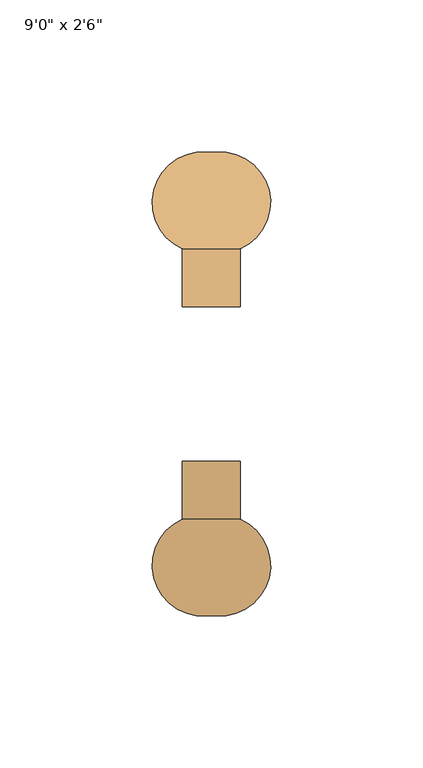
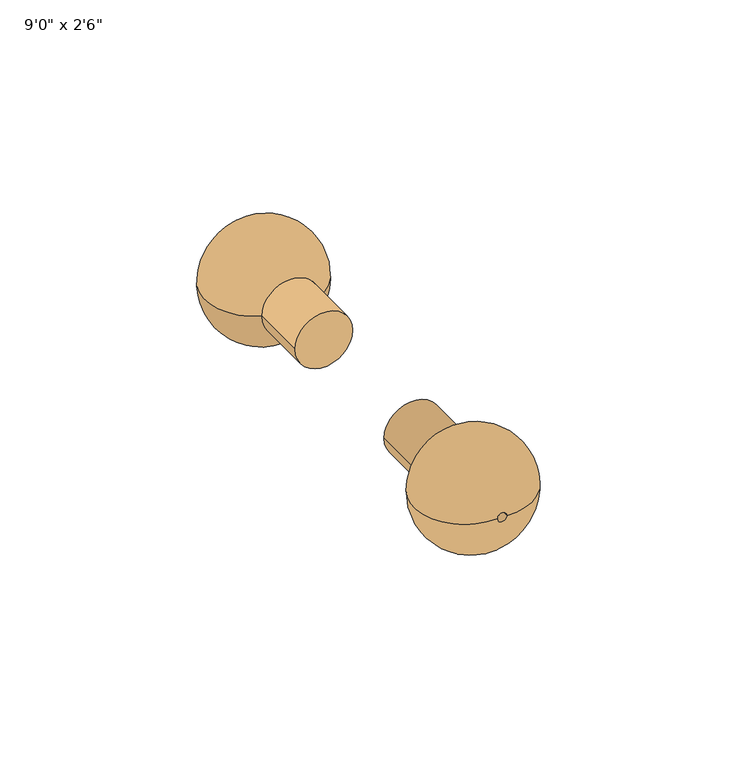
"""IFC4 building model written with IfcOpenShell, lengths in millimetres: door geometry."""

from ifc_helpers import new_model, si_unit, point, frame, frame_2d, origin, place, context, project, spatial, polyline, circle_curve, ellipse_curve, trimmed, segment, composite_curve, outline, extrude, source, transform, mapped, element, save
from ifc_brep_helpers import plane_surface, revolved_surface, advanced_brep


def door_ec2dc254(model_context):
    return source(origin(), model_context, "Body", "SolidModel", [
        advanced_brep(
        [(-307.975, 88.9, 1016.0), (-327.025, 88.9, 1016.0), (-327.025, 69.85, 1016.0), (-307.975, 69.85, 1016.0), (-315.9125, 101.6, 1016.0), (-319.0875, 101.6, 1016.0), (-319.0875, 88.9, 1016.0), (-315.9125, 88.9, 1016.0)],
        [
            (0, 1, circle_curve(frame((-317.5, 88.9, 1016.0), z_axis=(0.0, 1.0, 0.0), x_axis=(-1.0, 0.0, 0.0)), 9.525)),
            (1, 2),
            (2, 3, circle_curve(frame((-317.5, 69.85, 1016.0), z_axis=(0.0, -1.0, 0.0), x_axis=(-1.0, 0.0, 0.0)), 9.525)),
            (3, 0),
            (4, 5, circle_curve(frame((-317.5, 101.6, 1016.0), z_axis=(0.0, 1.0, 0.0), x_axis=(-1.0, 0.0, 0.0)), 1.5875)),
            (5, 6),
            (6, 7, circle_curve(frame((-317.5, 88.9, 1016.0), z_axis=(0.0, -1.0, 0.0), x_axis=(-1.0, 0.0, 0.0)), 1.5875)),
            (7, 4),
            (2, 5, circle_curve(frame((-320.3791378, 85.055722, 1016.0), z_axis=(0.0, 0.0, -1.0), x_axis=(-1.0, 0.0, 0.0)), 16.5946215)),
            (4, 3, circle_curve(frame((-314.6208622, 85.055722, 1016.0), z_axis=(0.0, 0.0, -1.0), x_axis=(1.0, 0.0, 0.0)), 16.5946215)),
            (1, 0, circle_curve(frame((-317.5, 88.9, 1016.0), z_axis=(0.0, 1.0, 0.0), x_axis=(1.0, 0.0, 0.0)), 9.525)),
            (3, 2, circle_curve(frame((-317.5, 69.85, 1016.0), z_axis=(0.0, -1.0, 0.0), x_axis=(1.0, 0.0, 0.0)), 9.525)),
            (6, 7, circle_curve(frame((-317.5, 88.9, 1016.0), z_axis=(0.0, 1.0, 0.0), x_axis=(1.0, 0.0, 0.0)), 1.5875)),
            (5, 4, circle_curve(frame((-317.5, 101.6, 1016.0), z_axis=(0.0, 1.0, 0.0), x_axis=(1.0, 0.0, 0.0)), 1.5875)),
        ],
        [
            revolved_surface(polyline([(-327.025, 69.85, 1016.0), (-327.025, 88.9, 1016.0)]), (-317.5, 88.9, 1016.0), (0.0, -1.0, 0.0)),
            revolved_surface(polyline([(-319.0875, 88.9, 1016.0), (-319.0875, 101.6, 1016.0)]), (-317.5, 88.9, 1016.0), (0.0, -1.0, 0.0)),
            revolved_surface(trimmed(ellipse_curve(frame((-320.3791378, 85.055722, 1016.0), z_axis=(0.0, 0.0, 1.0), x_axis=(-1.0, 0.0, 0.0)), 16.5946215, 16.5946215), [point((-319.0875, 101.6, 1016.0))], [point((-327.025, 69.85, 1016.0))], True, "CARTESIAN"), (-317.5, 88.9, 1016.0), (0.0, -1.0, 0.0)),
            revolved_surface(polyline([(-307.975, 69.85, 1016.0), (-307.975, 88.9, 1016.0)]), (-317.5, 88.9, 1016.0), (0.0, -1.0, 0.0)),
            plane_surface(frame((-317.5, 88.9, 1016.0), z_axis=(0.0, -1.0, 0.0), x_axis=(1.0, 0.0, 0.0))),
            revolved_surface(polyline([(-315.9125, 88.9, 1016.0), (-315.9125, 101.6, 1016.0)]), (-317.5, 88.9, 1016.0), (0.0, -1.0, 0.0)),
            revolved_surface(trimmed(ellipse_curve(frame((-314.6208622, 85.055722, 1016.0), z_axis=(0.0, 0.0, -1.0), x_axis=(1.0, 0.0, 0.0)), 16.5946215, 16.5946215), [point((-315.9125, 101.6, 1016.0))], [point((-307.975, 69.85, 1016.0))], True, "CARTESIAN"), (-317.5, 88.9, 1016.0), (0.0, -1.0, 0.0)),
        ],
        [
            (0, [[1, 2, 3, 4]]),
            (1, [[5, 6, 7, 8]]),
            (2, [[-3, 9, -5, 10]]),
            (3, [[11, -4, 12, -2]]),
            (4, [[-11, -1], [13, -7]]),
            (5, [[14, -8, -13, -6]]),
            (6, [[-12, -10, -14, -9]]),
        ],
    ),
        extrude(outline(composite_curve([segment(trimmed(circle_curve(frame_2d((1016.0, -317.5)), 9.525), [point((1016.0, -307.975))], [point((1016.0, -327.025))], False, "CARTESIAN"), True, "CONTINUOUS"), segment(trimmed(circle_curve(frame_2d((1016.0, -317.5)), 9.525), [point((1016.0, -327.025))], [point((1016.0, -307.975))], False, "CARTESIAN"), True, "CONTINUOUS")], self_intersect=False)), frame((0.0, 50.8, 0.0), z_axis=(0.0, 1.0, 0.0), x_axis=(0.0, 0.0, 1.0)), (0.0, 0.0, 1.0), 38.1),
        advanced_brep(
        [(-327.025, -38.1, 1016.0), (-307.975, -38.1, 1016.0), (-307.975, -19.05, 1016.0), (-327.025, -19.05, 1016.0), (-319.0875, -50.8, 1016.0), (-315.9125, -50.8, 1016.0), (-315.9125, -38.1, 1016.0), (-319.0875, -38.1, 1016.0)],
        [
            (0, 1, circle_curve(frame((-317.5, -38.1, 1016.0), z_axis=(0.0, -1.0, 0.0), x_axis=(1.0, 0.0, 0.0)), 9.525)),
            (1, 2),
            (2, 3, circle_curve(frame((-317.5, -19.05, 1016.0), z_axis=(0.0, 1.0, 0.0), x_axis=(1.0, 0.0, 0.0)), 9.525)),
            (3, 0),
            (4, 5, circle_curve(frame((-317.5, -50.8, 1016.0), z_axis=(0.0, -1.0, 0.0), x_axis=(1.0, 0.0, 0.0)), 1.5875)),
            (5, 6),
            (6, 7, circle_curve(frame((-317.5, -38.1, 1016.0), z_axis=(0.0, 1.0, 0.0), x_axis=(1.0, 0.0, 0.0)), 1.5875)),
            (7, 4),
            (2, 5, circle_curve(frame((-314.6208622, -34.255722, 1016.0), z_axis=(0.0, 0.0, -1.0), x_axis=(1.0, 0.0, 0.0)), 16.5946215)),
            (4, 3, circle_curve(frame((-320.3791378, -34.255722, 1016.0), z_axis=(0.0, 0.0, -1.0), x_axis=(-1.0, 0.0, 0.0)), 16.5946215)),
            (1, 0, circle_curve(frame((-317.5, -38.1, 1016.0), z_axis=(0.0, -1.0, 0.0), x_axis=(-1.0, 0.0, 0.0)), 9.525)),
            (3, 2, circle_curve(frame((-317.5, -19.05, 1016.0), z_axis=(0.0, 1.0, 0.0), x_axis=(-1.0, 0.0, 0.0)), 9.525)),
            (6, 7, circle_curve(frame((-317.5, -38.1, 1016.0), z_axis=(0.0, -1.0, 0.0), x_axis=(-1.0, 0.0, 0.0)), 1.5875)),
            (5, 4, circle_curve(frame((-317.5, -50.8, 1016.0), z_axis=(0.0, -1.0, 0.0), x_axis=(-1.0, 0.0, 0.0)), 1.5875)),
        ],
        [
            revolved_surface(polyline([(-307.975, -19.05, 1016.0), (-307.975, -38.1, 1016.0)]), (-317.5, -38.1, 1016.0), (0.0, 1.0, 0.0)),
            revolved_surface(polyline([(-315.9125, -38.1, 1016.0), (-315.9125, -50.8, 1016.0)]), (-317.5, -38.1, 1016.0), (0.0, 1.0, 0.0)),
            revolved_surface(trimmed(ellipse_curve(frame((-314.6208622, -34.255722, 1016.0), z_axis=(0.0, 0.0, 1.0), x_axis=(1.0, 0.0, 0.0)), 16.5946215, 16.5946215), [point((-315.9125, -50.8, 1016.0))], [point((-307.975, -19.05, 1016.0))], True, "CARTESIAN"), (-317.5, -38.1, 1016.0), (0.0, 1.0, 0.0)),
            revolved_surface(polyline([(-327.025, -19.05, 1016.0), (-327.025, -38.1, 1016.0)]), (-317.5, -38.1, 1016.0), (0.0, 1.0, 0.0)),
            plane_surface(frame((-317.5, -38.1, 1016.0), z_axis=(0.0, 1.0, 0.0), x_axis=(-1.0, 0.0, 0.0))),
            revolved_surface(polyline([(-319.0875, -38.1, 1016.0), (-319.0875, -50.8, 1016.0)]), (-317.5, -38.1, 1016.0), (0.0, 1.0, 0.0)),
            revolved_surface(trimmed(ellipse_curve(frame((-320.3791378, -34.255722, 1016.0), z_axis=(0.0, 0.0, -1.0), x_axis=(-1.0, 0.0, 0.0)), 16.5946215, 16.5946215), [point((-319.0875, -50.8, 1016.0))], [point((-327.025, -19.05, 1016.0))], True, "CARTESIAN"), (-317.5, -38.1, 1016.0), (0.0, 1.0, 0.0)),
        ],
        [
            (0, [[1, 2, 3, 4]]),
            (1, [[5, 6, 7, 8]]),
            (2, [[-3, 9, -5, 10]]),
            (3, [[11, -4, 12, -2]]),
            (4, [[-11, -1], [13, -7]]),
            (5, [[14, -8, -13, -6]]),
            (6, [[-12, -10, -14, -9]]),
        ],
    ),
        extrude(outline(composite_curve([segment(trimmed(circle_curve(frame_2d((1016.0, -317.5)), 9.525), [point((1016.0, -307.975))], [point((1016.0, -327.025))], False, "CARTESIAN"), True, "CONTINUOUS"), segment(trimmed(circle_curve(frame_2d((1016.0, -317.5)), 9.525), [point((1016.0, -327.025))], [point((1016.0, -307.975))], False, "CARTESIAN"), True, "CONTINUOUS")], self_intersect=False)), frame((0.0, -38.1, 0.0), z_axis=(0.0, 1.0, 0.0), x_axis=(0.0, 0.0, 1.0)), (0.0, 0.0, 1.0), 38.1),
    ])


if __name__ == "__main__":
    model = new_model("IFC4")
    model_context = context("Model", 3, world=origin())
    ifc_project = project(units=[si_unit("LENGTHUNIT", "METRE", prefix="MILLI")], contexts=[model_context])
    site = spatial("IfcSite", under=ifc_project)
    building = spatial("IfcBuilding", under=site)
    placement = place(None, origin())
    door_shape = door_ec2dc254(model_context)
    element("IfcDoor", 1, ObjectType="Planitar - Single Door_Swapper : 9'0\" x 2'6\"", at=placement, inside=building, context=model_context, shape_type="MappedRepresentation", body=[
        mapped(door_shape, transform((0.0, 0.0, 0.0), x_axis=(1.0, 0.0, 0.0), y_axis=(0.0, 1.0, 0.0), z_axis=(0.0, 0.0, 1.0))),
    ])
    save(model, "model.ifc")
